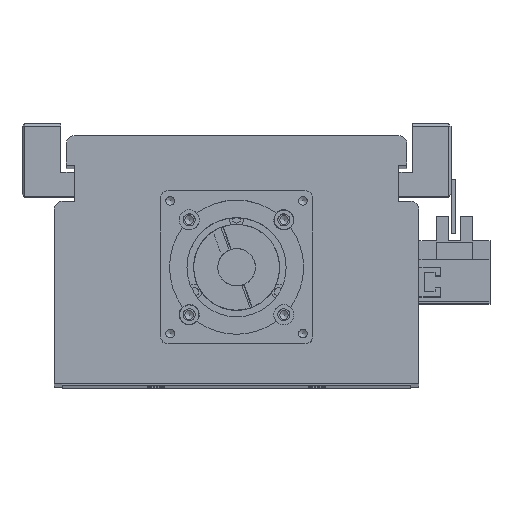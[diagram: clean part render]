
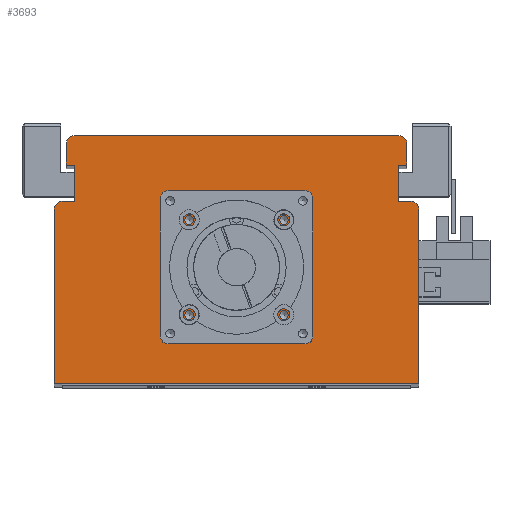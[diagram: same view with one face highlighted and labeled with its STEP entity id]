
A CAD part, top view. The second image highlights one B-rep face of the part: STEP entity #3693.
In plain terms, the highlighted planar face has unit normal (0, 0, 1).
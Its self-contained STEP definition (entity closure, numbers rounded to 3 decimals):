
#2251=CARTESIAN_POINT('',(19.321,61.5,745.));
#2252=VERTEX_POINT('',#2251);
#2253=CARTESIAN_POINT('',(17.7,61.5,745.));
#2254=DIRECTION('',(0.0,0.0,-1.0));
#2255=DIRECTION('',(1.0,0.0,0.0));
#2256=AXIS2_PLACEMENT_3D('',#2253,#2254,#2255);
#2257=CIRCLE('',#2256,1.621);
#2258=EDGE_CURVE('',#2252,#2252,#2257,.T.);
#2330=CARTESIAN_POINT('',(19.321,26.1,745.));
#2331=VERTEX_POINT('',#2330);
#2332=CARTESIAN_POINT('',(17.7,26.1,745.));
#2333=DIRECTION('',(0.0,0.0,-1.0));
#2334=DIRECTION('',(1.0,0.0,0.0));
#2335=AXIS2_PLACEMENT_3D('',#2332,#2333,#2334);
#2336=CIRCLE('',#2335,1.621);
#2337=EDGE_CURVE('',#2331,#2331,#2336,.T.);
#2409=CARTESIAN_POINT('',(-16.079,26.1,745.));
#2410=VERTEX_POINT('',#2409);
#2411=CARTESIAN_POINT('',(-17.7,26.1,745.));
#2412=DIRECTION('',(0.0,0.0,-1.0));
#2413=DIRECTION('',(1.0,0.0,0.0));
#2414=AXIS2_PLACEMENT_3D('',#2411,#2412,#2413);
#2415=CIRCLE('',#2414,1.621);
#2416=EDGE_CURVE('',#2410,#2410,#2415,.T.);
#2488=CARTESIAN_POINT('',(-16.079,61.5,745.));
#2489=VERTEX_POINT('',#2488);
#2490=CARTESIAN_POINT('',(-17.7,61.5,745.));
#2491=DIRECTION('',(0.0,0.0,-1.0));
#2492=DIRECTION('',(1.0,0.0,0.0));
#2493=AXIS2_PLACEMENT_3D('',#2490,#2491,#2492);
#2494=CIRCLE('',#2493,1.621);
#2495=EDGE_CURVE('',#2489,#2489,#2494,.T.);
#2529=CARTESIAN_POINT('',(26.5,43.8,745.));
#2530=VERTEX_POINT('',#2529);
#2531=CARTESIAN_POINT('',(24.5,43.8,745.));
#2532=DIRECTION('',(0.0,0.0,-1.0));
#2533=DIRECTION('',(1.0,0.0,0.0));
#2534=AXIS2_PLACEMENT_3D('',#2531,#2532,#2533);
#2535=CIRCLE('',#2534,2.0);
#2536=EDGE_CURVE('',#2530,#2530,#2535,.T.);
#2578=CARTESIAN_POINT('',(-22.5,43.8,745.));
#2579=VERTEX_POINT('',#2578);
#2580=CARTESIAN_POINT('',(-24.5,43.8,745.));
#2581=DIRECTION('',(0.0,0.0,-1.0));
#2582=DIRECTION('',(1.0,0.0,0.0));
#2583=AXIS2_PLACEMENT_3D('',#2580,#2581,#2582);
#2584=CIRCLE('',#2583,2.0);
#2585=EDGE_CURVE('',#2579,#2579,#2584,.T.);
#3509=CARTESIAN_POINT('',(21.05,43.8,745.));
#3510=VERTEX_POINT('',#3509);
#3511=CARTESIAN_POINT('',(0.0,43.8,745.));
#3512=DIRECTION('',(0.0,0.0,-1.0));
#3513=DIRECTION('',(-1.0,0.0,0.0));
#3514=AXIS2_PLACEMENT_3D('',#3511,#3512,#3513);
#3515=CIRCLE('',#3514,21.05);
#3516=EDGE_CURVE('',#3510,#3510,#3515,.T.);
#3533=CARTESIAN_POINT('',(0.,29.533,745.));
#3534=DIRECTION('',(0.0,0.0,1.0));
#3535=DIRECTION('',(1.0,0.0,0.0));
#3536=AXIS2_PLACEMENT_3D('',#3533,#3534,#3535);
#3537=PLANE('',#3536);
#3538=CARTESIAN_POINT('',(-65.,68.5,745.));
#3539=VERTEX_POINT('',#3538);
#3540=CARTESIAN_POINT('',(-60.5,68.5,745.0));
#3541=VERTEX_POINT('',#3540);
#3542=CARTESIAN_POINT('',(-65.,68.5,745.));
#3543=DIRECTION('',(1.0,0.0,0.0));
#3544=VECTOR('',#3543,4.5);
#3545=LINE('',#3542,#3544);
#3546=EDGE_CURVE('',#3539,#3541,#3545,.T.);
#3547=ORIENTED_EDGE('',*,*,#3546,.F.);
#3548=CARTESIAN_POINT('',(-68.,65.5,745.));
#3549=VERTEX_POINT('',#3548);
#3550=CARTESIAN_POINT('',(-65.,65.5,745.0));
#3551=DIRECTION('',(0.0,0.0,-1.0));
#3552=DIRECTION('',(0.0,1.0,0.0));
#3553=AXIS2_PLACEMENT_3D('',#3550,#3551,#3552);
#3554=CIRCLE('',#3553,3.);
#3555=EDGE_CURVE('',#3549,#3539,#3554,.T.);
#3556=ORIENTED_EDGE('',*,*,#3555,.F.);
#3557=CARTESIAN_POINT('',(-68.0,0.5,745.));
#3558=VERTEX_POINT('',#3557);
#3559=CARTESIAN_POINT('',(-68.0,0.5,745.));
#3560=DIRECTION('',(0.0,1.0,0.0));
#3561=VECTOR('',#3560,65.0);
#3562=LINE('',#3559,#3561);
#3563=EDGE_CURVE('',#3558,#3549,#3562,.T.);
#3564=ORIENTED_EDGE('',*,*,#3563,.F.);
#3565=CARTESIAN_POINT('',(68.0,0.5,745.));
#3566=VERTEX_POINT('',#3565);
#3567=CARTESIAN_POINT('',(68.0,0.5,745.));
#3568=DIRECTION('',(-1.0,0.0,0.0));
#3569=VECTOR('',#3568,136.0);
#3570=LINE('',#3567,#3569);
#3571=EDGE_CURVE('',#3566,#3558,#3570,.T.);
#3572=ORIENTED_EDGE('',*,*,#3571,.F.);
#3573=CARTESIAN_POINT('',(68.0,65.5,745.));
#3574=VERTEX_POINT('',#3573);
#3575=CARTESIAN_POINT('',(68.0,65.5,745.));
#3576=DIRECTION('',(0.0,-1.0,0.0));
#3577=VECTOR('',#3576,65.0);
#3578=LINE('',#3575,#3577);
#3579=EDGE_CURVE('',#3574,#3566,#3578,.T.);
#3580=ORIENTED_EDGE('',*,*,#3579,.F.);
#3581=CARTESIAN_POINT('',(65.,68.5,745.));
#3582=VERTEX_POINT('',#3581);
#3583=CARTESIAN_POINT('',(65.,65.5,745.0));
#3584=DIRECTION('',(0.0,0.0,-1.0));
#3585=DIRECTION('',(1.0,0.0,0.0));
#3586=AXIS2_PLACEMENT_3D('',#3583,#3584,#3585);
#3587=CIRCLE('',#3586,3.);
#3588=EDGE_CURVE('',#3582,#3574,#3587,.T.);
#3589=ORIENTED_EDGE('',*,*,#3588,.F.);
#3590=CARTESIAN_POINT('',(60.5,68.5,745.0));
#3591=VERTEX_POINT('',#3590);
#3592=CARTESIAN_POINT('',(60.5,68.5,745.0));
#3593=DIRECTION('',(1.0,0.0,0.0));
#3594=VECTOR('',#3593,4.5);
#3595=LINE('',#3592,#3594);
#3596=EDGE_CURVE('',#3591,#3582,#3595,.T.);
#3597=ORIENTED_EDGE('',*,*,#3596,.F.);
#3598=CARTESIAN_POINT('',(60.5,82.,745.));
#3599=VERTEX_POINT('',#3598);
#3600=CARTESIAN_POINT('',(60.5,82.,745.));
#3601=DIRECTION('',(0.0,-1.0,0.0));
#3602=VECTOR('',#3601,13.5);
#3603=LINE('',#3600,#3602);
#3604=EDGE_CURVE('',#3599,#3591,#3603,.T.);
#3605=ORIENTED_EDGE('',*,*,#3604,.F.);
#3606=CARTESIAN_POINT('',(63.5,82.,745.));
#3607=VERTEX_POINT('',#3606);
#3608=CARTESIAN_POINT('',(63.5,82.,745.));
#3609=DIRECTION('',(-1.0,0.0,0.0));
#3610=VECTOR('',#3609,3.0);
#3611=LINE('',#3608,#3610);
#3612=EDGE_CURVE('',#3607,#3599,#3611,.T.);
#3613=ORIENTED_EDGE('',*,*,#3612,.F.);
#3614=CARTESIAN_POINT('',(63.5,90.0,745.));
#3615=VERTEX_POINT('',#3614);
#3616=CARTESIAN_POINT('',(63.5,90.0,745.));
#3617=DIRECTION('',(0.0,-1.0,0.0));
#3618=VECTOR('',#3617,8.);
#3619=LINE('',#3616,#3618);
#3620=EDGE_CURVE('',#3615,#3607,#3619,.T.);
#3621=ORIENTED_EDGE('',*,*,#3620,.F.);
#3622=CARTESIAN_POINT('',(60.5,93.,745.));
#3623=VERTEX_POINT('',#3622);
#3624=CARTESIAN_POINT('',(60.5,90.0,745.0));
#3625=DIRECTION('',(0.0,0.0,-1.0));
#3626=DIRECTION('',(1.0,0.0,0.0));
#3627=AXIS2_PLACEMENT_3D('',#3624,#3625,#3626);
#3628=CIRCLE('',#3627,3.);
#3629=EDGE_CURVE('',#3623,#3615,#3628,.T.);
#3630=ORIENTED_EDGE('',*,*,#3629,.F.);
#3631=CARTESIAN_POINT('',(-60.5,93.0,745.));
#3632=VERTEX_POINT('',#3631);
#3633=CARTESIAN_POINT('',(-60.5,93.0,745.));
#3634=DIRECTION('',(1.0,0.0,0.0));
#3635=VECTOR('',#3634,121.0);
#3636=LINE('',#3633,#3635);
#3637=EDGE_CURVE('',#3632,#3623,#3636,.T.);
#3638=ORIENTED_EDGE('',*,*,#3637,.F.);
#3639=CARTESIAN_POINT('',(-63.5,90.0,745.));
#3640=VERTEX_POINT('',#3639);
#3641=CARTESIAN_POINT('',(-60.5,90.0,745.0));
#3642=DIRECTION('',(0.0,0.0,-1.0));
#3643=DIRECTION('',(0.0,1.0,0.0));
#3644=AXIS2_PLACEMENT_3D('',#3641,#3642,#3643);
#3645=CIRCLE('',#3644,3.);
#3646=EDGE_CURVE('',#3640,#3632,#3645,.T.);
#3647=ORIENTED_EDGE('',*,*,#3646,.F.);
#3648=CARTESIAN_POINT('',(-63.5,82.,745.));
#3649=VERTEX_POINT('',#3648);
#3650=CARTESIAN_POINT('',(-63.5,82.,745.));
#3651=DIRECTION('',(0.0,1.0,0.0));
#3652=VECTOR('',#3651,8.);
#3653=LINE('',#3650,#3652);
#3654=EDGE_CURVE('',#3649,#3640,#3653,.T.);
#3655=ORIENTED_EDGE('',*,*,#3654,.F.);
#3656=CARTESIAN_POINT('',(-60.5,82.,745.));
#3657=VERTEX_POINT('',#3656);
#3658=CARTESIAN_POINT('',(-60.5,82.,745.));
#3659=DIRECTION('',(-1.0,0.0,0.0));
#3660=VECTOR('',#3659,3.);
#3661=LINE('',#3658,#3660);
#3662=EDGE_CURVE('',#3657,#3649,#3661,.T.);
#3663=ORIENTED_EDGE('',*,*,#3662,.F.);
#3664=CARTESIAN_POINT('',(-60.5,68.5,745.0));
#3665=DIRECTION('',(0.0,1.0,0.0));
#3666=VECTOR('',#3665,13.5);
#3667=LINE('',#3664,#3666);
#3668=EDGE_CURVE('',#3541,#3657,#3667,.T.);
#3669=ORIENTED_EDGE('',*,*,#3668,.F.);
#3670=EDGE_LOOP('',(#3547,#3556,#3564,#3572,#3580,#3589,#3597,#3605,#3613,#3621,#3630,#3638,#3647,#3655,#3663,#3669));
#3671=FACE_OUTER_BOUND('',#3670,.T.);
#3672=ORIENTED_EDGE('',*,*,#2258,.T.);
#3673=EDGE_LOOP('',(#3672));
#3674=FACE_BOUND('',#3673,.T.);
#3675=ORIENTED_EDGE('',*,*,#2337,.T.);
#3676=EDGE_LOOP('',(#3675));
#3677=FACE_BOUND('',#3676,.T.);
#3678=ORIENTED_EDGE('',*,*,#2416,.T.);
#3679=EDGE_LOOP('',(#3678));
#3680=FACE_BOUND('',#3679,.T.);
#3681=ORIENTED_EDGE('',*,*,#2495,.T.);
#3682=EDGE_LOOP('',(#3681));
#3683=FACE_BOUND('',#3682,.T.);
#3684=ORIENTED_EDGE('',*,*,#2536,.T.);
#3685=EDGE_LOOP('',(#3684));
#3686=FACE_BOUND('',#3685,.T.);
#3687=ORIENTED_EDGE('',*,*,#2585,.T.);
#3688=EDGE_LOOP('',(#3687));
#3689=FACE_BOUND('',#3688,.T.);
#3690=ORIENTED_EDGE('',*,*,#3516,.T.);
#3691=EDGE_LOOP('',(#3690));
#3692=FACE_BOUND('',#3691,.T.);
#3693=ADVANCED_FACE('',(#3671,#3674,#3677,#3680,#3683,#3686,#3689,#3692),#3537,.T.);
